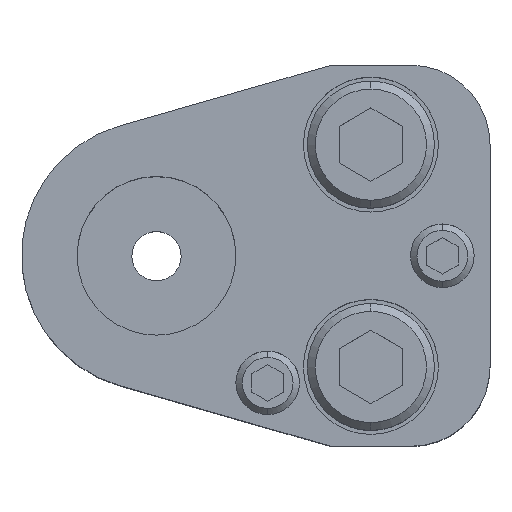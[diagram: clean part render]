
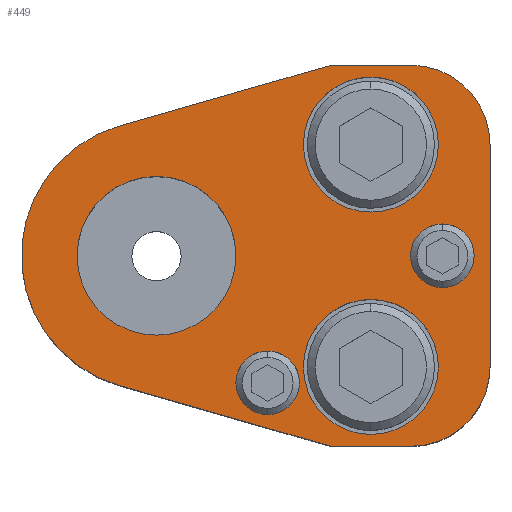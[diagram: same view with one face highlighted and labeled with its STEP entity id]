
A CAD part, top view. The second image highlights one B-rep face of the part: STEP entity #449.
In plain terms, the highlighted planar face has unit normal (0, 0, 1).
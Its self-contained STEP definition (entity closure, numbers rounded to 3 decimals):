
#205=FACE_BOUND('',#805,.T.);
#206=FACE_BOUND('',#806,.T.);
#207=FACE_BOUND('',#807,.T.);
#208=FACE_BOUND('',#808,.T.);
#209=FACE_BOUND('',#809,.T.);
#210=FACE_BOUND('',#810,.T.);
#271=CIRCLE('',#2618,17.);
#273=CIRCLE('',#2623,10.);
#275=CIRCLE('',#2627,10.);
#277=CIRCLE('',#2632,4.);
#279=CIRCLE('',#2635,4.);
#281=CIRCLE('',#2638,4.);
#283=CIRCLE('',#2641,4.);
#293=CIRCLE('',#2656,8.5);
#294=CIRCLE('',#2657,8.5);
#295=CIRCLE('',#2658,8.5);
#296=CIRCLE('',#2659,8.5);
#297=CIRCLE('',#2660,10.);
#298=CIRCLE('',#2661,10.);
#449=ADVANCED_FACE('',(#205,#206,#207,#208,#209,#210),#579,.T.);
#579=PLANE('',#2662);
#805=EDGE_LOOP('',(#1137,#1138,#1139,#1140,#1141,#1142,#1143,#1144));
#806=EDGE_LOOP('',(#1145,#1146));
#807=EDGE_LOOP('',(#1147,#1148));
#808=EDGE_LOOP('',(#1149,#1150));
#809=EDGE_LOOP('',(#1151,#1152));
#810=EDGE_LOOP('',(#1153,#1154));
#1137=ORIENTED_EDGE('',*,*,#1914,.T.);
#1138=ORIENTED_EDGE('',*,*,#1918,.T.);
#1139=ORIENTED_EDGE('',*,*,#1921,.T.);
#1140=ORIENTED_EDGE('',*,*,#1924,.T.);
#1141=ORIENTED_EDGE('',*,*,#1927,.T.);
#1142=ORIENTED_EDGE('',*,*,#1930,.T.);
#1143=ORIENTED_EDGE('',*,*,#1933,.T.);
#1144=ORIENTED_EDGE('',*,*,#1936,.T.);
#1145=ORIENTED_EDGE('',*,*,#1961,.F.);
#1146=ORIENTED_EDGE('',*,*,#1962,.F.);
#1147=ORIENTED_EDGE('',*,*,#1963,.F.);
#1148=ORIENTED_EDGE('',*,*,#1964,.F.);
#1149=ORIENTED_EDGE('',*,*,#1947,.F.);
#1150=ORIENTED_EDGE('',*,*,#1943,.F.);
#1151=ORIENTED_EDGE('',*,*,#1941,.F.);
#1152=ORIENTED_EDGE('',*,*,#1937,.F.);
#1153=ORIENTED_EDGE('',*,*,#1965,.T.);
#1154=ORIENTED_EDGE('',*,*,#1966,.T.);
#1670=VERTEX_POINT('',#3804);
#1671=VERTEX_POINT('',#3806);
#1674=VERTEX_POINT('',#3813);
#1676=VERTEX_POINT('',#3819);
#1678=VERTEX_POINT('',#3825);
#1680=VERTEX_POINT('',#3831);
#1682=VERTEX_POINT('',#3837);
#1684=VERTEX_POINT('',#3843);
#1685=VERTEX_POINT('',#3851);
#1686=VERTEX_POINT('',#3852);
#1689=VERTEX_POINT('',#3863);
#1690=VERTEX_POINT('',#3864);
#1701=VERTEX_POINT('',#3899);
#1702=VERTEX_POINT('',#3900);
#1703=VERTEX_POINT('',#3903);
#1704=VERTEX_POINT('',#3904);
#1705=VERTEX_POINT('',#3907);
#1706=VERTEX_POINT('',#3908);
#1914=EDGE_CURVE('',#1671,#1670,#271,.T.);
#1918=EDGE_CURVE('',#1670,#1674,#2242,.T.);
#1921=EDGE_CURVE('',#1674,#1676,#2245,.T.);
#1924=EDGE_CURVE('',#1676,#1678,#273,.T.);
#1927=EDGE_CURVE('',#1678,#1680,#2249,.T.);
#1930=EDGE_CURVE('',#1680,#1682,#275,.T.);
#1933=EDGE_CURVE('',#1682,#1684,#2253,.T.);
#1936=EDGE_CURVE('',#1684,#1671,#2256,.T.);
#1937=EDGE_CURVE('',#1685,#1686,#277,.T.);
#1941=EDGE_CURVE('',#1686,#1685,#279,.T.);
#1943=EDGE_CURVE('',#1689,#1690,#281,.T.);
#1947=EDGE_CURVE('',#1690,#1689,#283,.T.);
#1961=EDGE_CURVE('',#1701,#1702,#293,.T.);
#1962=EDGE_CURVE('',#1702,#1701,#294,.T.);
#1963=EDGE_CURVE('',#1703,#1704,#295,.T.);
#1964=EDGE_CURVE('',#1704,#1703,#296,.T.);
#1965=EDGE_CURVE('',#1705,#1706,#297,.T.);
#1966=EDGE_CURVE('',#1706,#1705,#298,.T.);
#2242=LINE('',#3814,#2432);
#2245=LINE('',#3820,#2435);
#2249=LINE('',#3832,#2439);
#2253=LINE('',#3844,#2443);
#2256=LINE('',#3848,#2446);
#2432=VECTOR('',#3024,1.);
#2435=VECTOR('',#3029,1.);
#2439=VECTOR('',#3041,1.);
#2443=VECTOR('',#3053,1.);
#2446=VECTOR('',#3058,1.);
#2618=AXIS2_PLACEMENT_3D('',#3805,#3016,#3017);
#2623=AXIS2_PLACEMENT_3D('',#3826,#3034,#3035);
#2627=AXIS2_PLACEMENT_3D('',#3838,#3046,#3047);
#2632=AXIS2_PLACEMENT_3D('',#3850,#3061,#3062);
#2635=AXIS2_PLACEMENT_3D('',#3859,#3069,#3070);
#2638=AXIS2_PLACEMENT_3D('',#3862,#3075,#3076);
#2641=AXIS2_PLACEMENT_3D('',#3871,#3083,#3084);
#2656=AXIS2_PLACEMENT_3D('',#3898,#3117,#3118);
#2657=AXIS2_PLACEMENT_3D('',#3901,#3119,#3120);
#2658=AXIS2_PLACEMENT_3D('',#3902,#3121,#3122);
#2659=AXIS2_PLACEMENT_3D('',#3905,#3123,#3124);
#2660=AXIS2_PLACEMENT_3D('',#3906,#3125,#3126);
#2661=AXIS2_PLACEMENT_3D('',#3909,#3127,#3128);
#2662=AXIS2_PLACEMENT_3D('',#3910,#3129,#3130);
#3016=DIRECTION('',(0.,0.,1.));
#3017=DIRECTION('',(0.,1.,0.));
#3024=DIRECTION('',(0.961,-0.276,0.));
#3029=DIRECTION('',(1.,0.,0.));
#3034=DIRECTION('',(0.,0.,1.));
#3035=DIRECTION('',(-0.707,0.707,0.));
#3041=DIRECTION('',(0.,1.,0.));
#3046=DIRECTION('',(0.,0.,1.));
#3047=DIRECTION('',(-0.707,-0.707,0.));
#3053=DIRECTION('',(-1.,0.,0.));
#3058=DIRECTION('',(-0.961,-0.276,0.));
#3061=DIRECTION('',(0.,0.,1.));
#3062=DIRECTION('',(1.,0.,0.));
#3069=DIRECTION('',(0.,0.,1.));
#3070=DIRECTION('',(-1.,0.,0.));
#3075=DIRECTION('',(0.,0.,1.));
#3076=DIRECTION('',(1.,0.,0.));
#3083=DIRECTION('',(0.,0.,1.));
#3084=DIRECTION('',(-1.,0.,0.));
#3117=DIRECTION('',(0.,0.,1.));
#3118=DIRECTION('',(1.,0.,0.));
#3119=DIRECTION('',(0.,0.,1.));
#3120=DIRECTION('',(-1.,0.,0.));
#3121=DIRECTION('',(0.,0.,1.));
#3122=DIRECTION('',(1.,0.,0.));
#3123=DIRECTION('',(0.,0.,1.));
#3124=DIRECTION('',(-1.,0.,0.));
#3125=DIRECTION('',(0.,0.,-1.));
#3126=DIRECTION('',(-1.,0.,0.));
#3127=DIRECTION('',(0.,0.,-1.));
#3128=DIRECTION('',(1.,0.,0.));
#3129=DIRECTION('',(0.,0.,1.));
#3130=DIRECTION('',(0.961,0.276,0.));
#3804=CARTESIAN_POINT('',(-4.69,-16.34,35.));
#3805=CARTESIAN_POINT('',(0.,0.,35.));
#3806=CARTESIAN_POINT('',(-4.69,16.34,35.));
#3813=CARTESIAN_POINT('',(22.,-24.,35.));
#3814=CARTESIAN_POINT('',(22.,-24.,35.));
#3819=CARTESIAN_POINT('',(32.,-24.,35.));
#3820=CARTESIAN_POINT('',(22.,-24.,35.));
#3825=CARTESIAN_POINT('',(42.,-14.,35.));
#3826=CARTESIAN_POINT('',(32.,-14.,35.));
#3831=CARTESIAN_POINT('',(42.,14.,35.));
#3832=CARTESIAN_POINT('',(42.,-14.,35.));
#3837=CARTESIAN_POINT('',(32.,24.,35.));
#3838=CARTESIAN_POINT('',(32.,14.,35.));
#3843=CARTESIAN_POINT('',(22.,24.,35.));
#3844=CARTESIAN_POINT('',(22.,24.,35.));
#3848=CARTESIAN_POINT('',(22.,24.,35.));
#3850=CARTESIAN_POINT('',(14.,-16.,35.));
#3851=CARTESIAN_POINT('',(14.,-12.,35.));
#3852=CARTESIAN_POINT('',(14.,-20.,35.));
#3859=CARTESIAN_POINT('',(14.,-16.,35.));
#3862=CARTESIAN_POINT('',(36.,0.,35.));
#3863=CARTESIAN_POINT('',(36.,4.,35.));
#3864=CARTESIAN_POINT('',(36.,-4.,35.));
#3871=CARTESIAN_POINT('',(36.,0.,35.));
#3898=CARTESIAN_POINT('',(27.,-14.,35.));
#3899=CARTESIAN_POINT('',(27.,-5.5,35.));
#3900=CARTESIAN_POINT('',(27.,-22.5,35.));
#3901=CARTESIAN_POINT('',(27.,-14.,35.));
#3902=CARTESIAN_POINT('',(27.,14.,35.));
#3903=CARTESIAN_POINT('',(27.,22.5,35.));
#3904=CARTESIAN_POINT('',(27.,5.5,35.));
#3905=CARTESIAN_POINT('',(27.,14.,35.));
#3906=CARTESIAN_POINT('',(0.,0.,35.));
#3907=CARTESIAN_POINT('',(0.,10.,35.));
#3908=CARTESIAN_POINT('',(0.,-10.,35.));
#3909=CARTESIAN_POINT('',(0.,0.,35.));
#3910=CARTESIAN_POINT('',(-4.69,16.34,35.));
